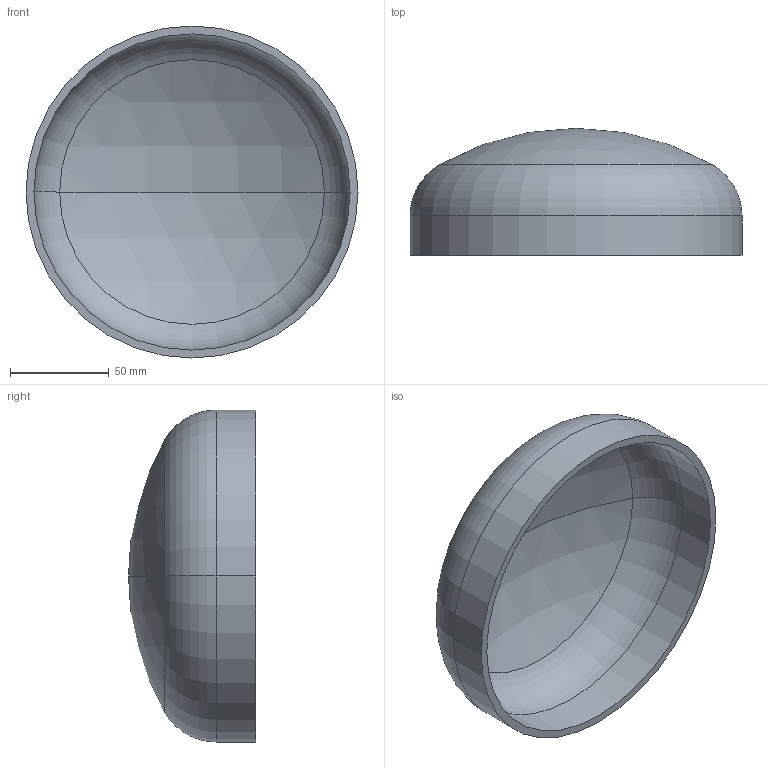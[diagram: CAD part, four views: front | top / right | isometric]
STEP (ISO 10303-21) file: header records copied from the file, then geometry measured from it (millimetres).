
FILE_DESCRIPTION (( 'STEP AP203' ), '1' );
FILE_NAME ('DIN 28013 Korbbogenform_-_Boden DIN 28013 - 168,3 x 20 - I - s=4.step', '2016-07-01T07:41:24', ( '' ), ( '' ), 'SwSTEP 2.0', 'SolidWorks 2013', '' );
FILE_SCHEMA (( 'CONFIG_CONTROL_DESIGN' ));
Length unit declared in the file: millimetre
Products named in the file (1): DIN 28013 Korbbogenform_-_Boden DIN 28013 - 168,3 x 20 - I - s=4
Bounding box: 168.3 x 64.4 x 168.3 mm (x, y, z)
Volume: 160800.3 mm3; surface area: 82498.3 mm2
Topology: 1 solids, 1 shells, 13 faces, 24 edges, 14 vertices
Faces by surface type: torus 4, cylinder 4, sphere 4, plane 1
Entity records: 407 total; most frequent: DIRECTION 72, CARTESIAN_POINT 52, ORIENTED_EDGE 48, AXIS2_PLACEMENT_3D 34, EDGE_CURVE 24, CIRCLE 20, EDGE_LOOP 14, VERTEX_POINT 14
